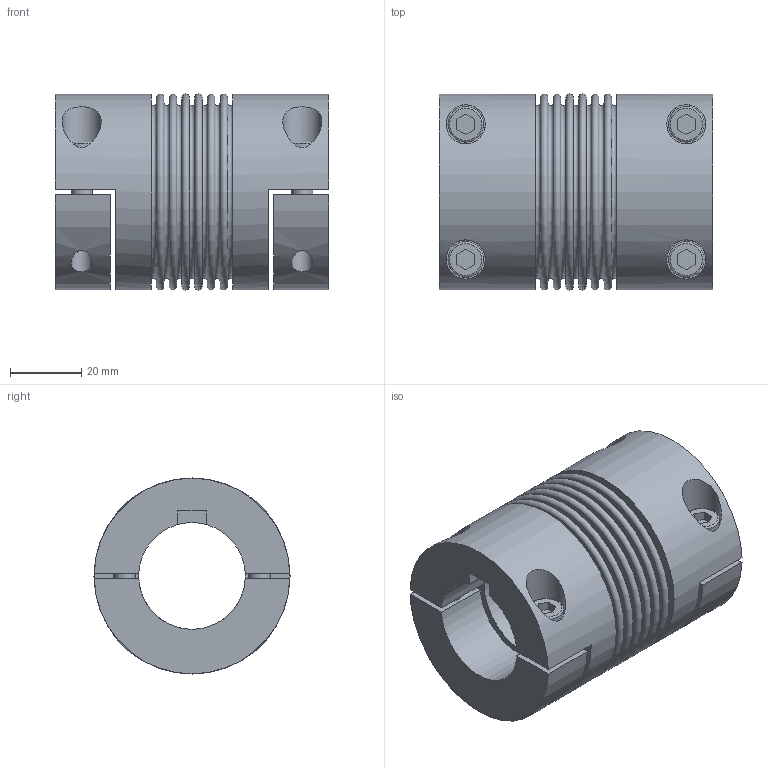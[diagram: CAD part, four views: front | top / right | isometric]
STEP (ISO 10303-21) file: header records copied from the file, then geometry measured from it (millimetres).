
FILE_DESCRIPTION(/* description */ ('STEP AP214'),/* implementation_level */ '2;1');
FILE_NAME(/* name */ 'C:\Diequa Files\DieQua Coupling\BCS\STP\BCS.30.77.#.#.stp',/* time_stamp */ '2018-11-15T09:16:56-06:00',/* author */ ('DiequaCAD'),/* organization */ (''),/* preprocessor_version */ 'ST-DEVELOPER v17.2',/* originating_system */ 'Autodesk Inventor 2019',/* authorisation */ ' ');
FILE_SCHEMA (('AUTOMOTIVE_DESIGN { 1 0 10303 214 3 1 1 }'));
Length unit declared in the file: millimetre
Products named in the file (1): BKH_30_77_30_PFN_30_PFN_8
Bounding box: 77 x 55.1 x 55.1 mm (x, y, z)
Volume: 114412.1 mm3; surface area: 36722.6 mm2
Topology: 1 solids, 1 shells, 118 faces, 281 edges, 197 vertices
Faces by surface type: plane 78, cylinder 23, torus 17
Full cylindrical faces by diameter (mm): 6 x8, 10 x4, 11 x4, 30 x1, 55 x2
Entity records: 3841 total; most frequent: CARTESIAN_POINT 900, DIRECTION 631, ORIENTED_EDGE 562, EDGE_CURVE 281, AXIS2_PLACEMENT_3D 244, VERTEX_POINT 197, EDGE_LOOP 156, LINE 143
